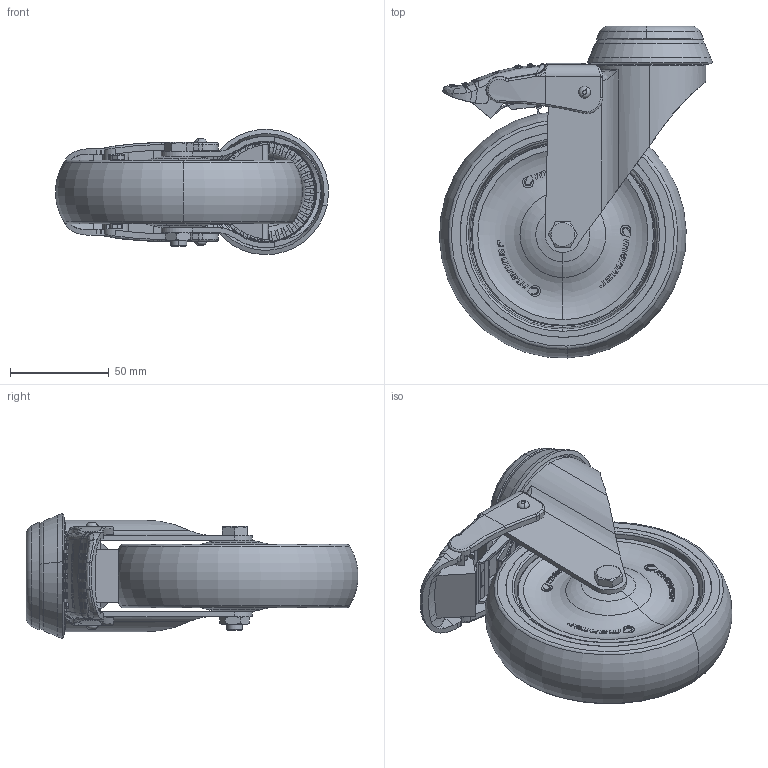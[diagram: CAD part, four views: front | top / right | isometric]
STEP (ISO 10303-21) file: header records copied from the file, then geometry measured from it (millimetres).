
FILE_DESCRIPTION (( 'STEP AP203' ), '1' );
FILE_NAME ('300882_STEP.STEP', '2012-02-28T06:27:32', ( '' ), ( '' ), 'SwSTEP 2.0', 'SolidWorks 2011', '' );
FILE_SCHEMA (( 'CONFIG_CONTROL_DESIGN' ));
Length unit declared in the file: millimetre
Products named in the file (1): 300882_STEP
Bounding box: 138.03 x 167.88 x 63.32 mm (x, y, z)
Surface area: 128763.5 mm2 (no closed solid volume)
Topology: 0 solids, 23 shells, 1116 faces, 4899 edges, 3622 vertices
Faces by surface type: plane 453, bspline 313, cylinder 203, torus 98, cone 49
Entity records: 78108 total; most frequent: CARTESIAN_POINT 46329, ORIENTED_EDGE 7162, EDGE_CURVE 4894, DIRECTION 3959, VERTEX_POINT 3622, B_SPLINE_CURVE_WITH_KNOTS 2912, VECTOR 1383, LINE 1383
